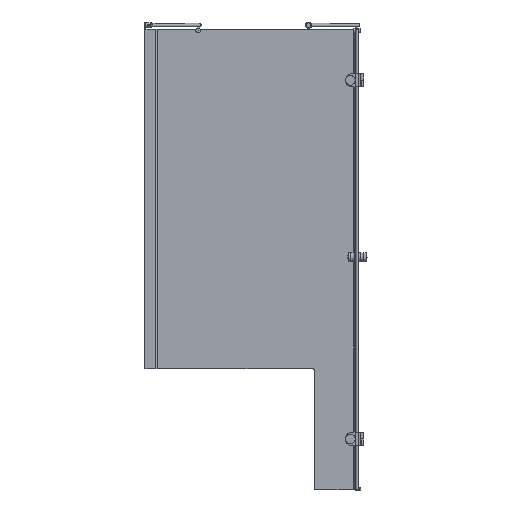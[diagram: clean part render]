
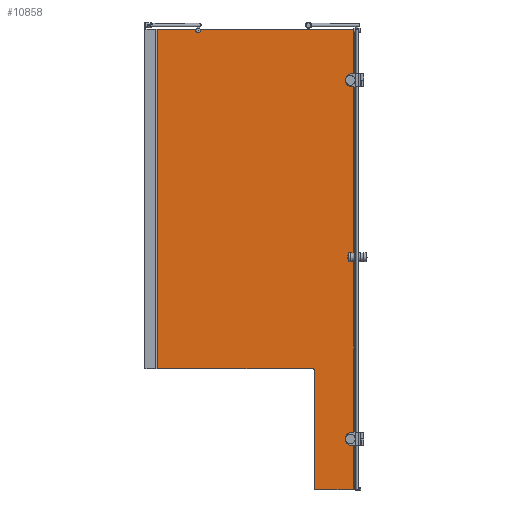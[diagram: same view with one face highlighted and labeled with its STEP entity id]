
A CAD part, left-side view. The second image highlights one B-rep face of the part: STEP entity #10858.
In plain terms, the highlighted planar face has unit normal (-1, 0, 0).
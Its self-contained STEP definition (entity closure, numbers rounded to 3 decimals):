
#85=LINE($,#15444,#1139);
#104=LINE($,#15516,#1158);
#121=LINE($,#15559,#1175);
#423=LINE($,#17005,#1477);
#433=LINE($,#17042,#1487);
#437=LINE($,#17055,#1491);
#455=LINE($,#17112,#1509);
#459=LINE($,#17138,#1513);
#524=LINE($,#17348,#1578);
#528=LINE($,#17357,#1582);
#634=LINE($,#17998,#1688);
#637=LINE($,#18003,#1691);
#648=LINE($,#18040,#1702);
#768=LINE($,#18416,#1822);
#1139=VECTOR($,#12101,631.666);
#1158=VECTOR($,#12154,2.457);
#1175=VECTOR($,#12183,158.474);
#1477=VECTOR($,#13073,1898.);
#1487=VECTOR($,#13095,12.192);
#1491=VECTOR($,#13111,2.543);
#1509=VECTOR($,#13145,1898.);
#1513=VECTOR($,#13165,1884.733);
#1578=VECTOR($,#13348,639.);
#1582=VECTOR($,#13356,1400.);
#1688=VECTOR($,#13742,2.);
#1691=VECTOR($,#13747,5.581);
#1702=VECTOR($,#13792,158.419);
#1822=VECTOR($,#14148,490.);
#2880=FACE_OUTER_BOUND($,#3495,.T.);
#3495=EDGE_LOOP($,(#8613,#8614,#8615,#8616,#8617,#8618,#8619,#8620,#8621,
#8622,#8623,#8624,#8625,#8626,#8627,#8628,#8629,#8630,#8631));
#3690=CIRCLE($,#11059,10.);
#3874=CIRCLE($,#11460,0.5);
#3875=CIRCLE($,#11462,16.);
#3879=CIRCLE($,#11469,16.);
#3996=CIRCLE($,#11765,10.);
#4062=VERTEX_POINT($,#15102);
#4064=VERTEX_POINT($,#15106);
#4090=VERTEX_POINT($,#15443);
#4125=VERTEX_POINT($,#15514);
#4126=VERTEX_POINT($,#15515);
#4146=VERTEX_POINT($,#15557);
#4465=VERTEX_POINT($,#17004);
#4475=VERTEX_POINT($,#17030);
#4476=VERTEX_POINT($,#17041);
#4479=VERTEX_POINT($,#17054);
#4500=VERTEX_POINT($,#17127);
#4535=VERTEX_POINT($,#17231);
#4536=VERTEX_POINT($,#17233);
#4561=VERTEX_POINT($,#17345);
#4562=VERTEX_POINT($,#17347);
#4683=VERTEX_POINT($,#17993);
#4684=VERTEX_POINT($,#17997);
#4694=VERTEX_POINT($,#18039);
#4780=VERTEX_POINT($,#18414);
#5069=EDGE_CURVE($,#4062,#4064,#3690,.T.);
#5102=EDGE_CURVE($,#4090,#4062,#85,.T.);
#5138=EDGE_CURVE($,#4125,#4126,#104,.T.);
#5160=EDGE_CURVE($,#4064,#4146,#121,.T.);
#5611=EDGE_CURVE($,#4126,#4465,#423,.T.);
#5625=EDGE_CURVE($,#4475,#4476,#433,.T.);
#5632=EDGE_CURVE($,#4465,#4479,#437,.T.);
#5656=EDGE_CURVE($,#4479,#4090,#455,.T.);
#5664=EDGE_CURVE($,#4125,#4500,#459,.T.);
#5712=EDGE_CURVE($,#4536,#4535,#3874,.T.);
#5714=EDGE_CURVE($,#4535,#4500,#3875,.T.);
#5727=EDGE_CURVE($,#4475,#4536,#3879,.T.);
#5759=EDGE_CURVE($,#4562,#4561,#524,.T.);
#5764=EDGE_CURVE($,#4146,#4562,#528,.T.);
#5953=EDGE_CURVE($,#4476,#4684,#634,.T.);
#5956=EDGE_CURVE($,#4684,#4683,#637,.T.);
#5973=EDGE_CURVE($,#4683,#4694,#648,.T.);
#6138=EDGE_CURVE($,#4780,#4561,#3996,.T.);
#6139=EDGE_CURVE($,#4780,#4694,#768,.T.);
#8613=ORIENTED_EDGE($,*,*,#5069,.T.);
#8614=ORIENTED_EDGE($,*,*,#5160,.T.);
#8615=ORIENTED_EDGE($,*,*,#5764,.T.);
#8616=ORIENTED_EDGE($,*,*,#5759,.T.);
#8617=ORIENTED_EDGE($,*,*,#6138,.F.);
#8618=ORIENTED_EDGE($,*,*,#6139,.T.);
#8619=ORIENTED_EDGE($,*,*,#5973,.F.);
#8620=ORIENTED_EDGE($,*,*,#5956,.F.);
#8621=ORIENTED_EDGE($,*,*,#5953,.F.);
#8622=ORIENTED_EDGE($,*,*,#5625,.F.);
#8623=ORIENTED_EDGE($,*,*,#5727,.T.);
#8624=ORIENTED_EDGE($,*,*,#5712,.T.);
#8625=ORIENTED_EDGE($,*,*,#5714,.T.);
#8626=ORIENTED_EDGE($,*,*,#5664,.F.);
#8627=ORIENTED_EDGE($,*,*,#5138,.T.);
#8628=ORIENTED_EDGE($,*,*,#5611,.T.);
#8629=ORIENTED_EDGE($,*,*,#5632,.T.);
#8630=ORIENTED_EDGE($,*,*,#5656,.T.);
#8631=ORIENTED_EDGE($,*,*,#5102,.T.);
#9747=PLANE($,#11764);
#10858=ADVANCED_FACE($,(#2880),#9747,.T.);
#11059=AXIS2_PLACEMENT_3D($,#15108,#12037,#12038);
#11460=AXIS2_PLACEMENT_3D($,#17234,#13256,#13257);
#11462=AXIS2_PLACEMENT_3D($,#17237,#13261,#13262);
#11469=AXIS2_PLACEMENT_3D($,#17280,#13282,#13283);
#11764=AXIS2_PLACEMENT_3D($,#18413,#14144,#14145);
#11765=AXIS2_PLACEMENT_3D($,#18415,#14146,#14147);
#12037=DIRECTION('center_axis',(1.,0.,0.));
#12038=DIRECTION('ref_axis',(0.,0.597,0.802));
#12101=DIRECTION($,(0.,1.,0.));
#12154=DIRECTION($,(0.,1.,0.));
#12183=DIRECTION($,(0.,1.,0.));
#13073=DIRECTION($,(0.,0.,-1.));
#13095=DIRECTION($,(0.,0.,-1.));
#13111=DIRECTION($,(0.,1.,0.));
#13145=DIRECTION($,(0.,0.,1.));
#13165=DIRECTION($,(0.,0.,-1.));
#13256=DIRECTION('center_axis',(1.,0.,0.));
#13257=DIRECTION('ref_axis',(0.,-0.169,-0.986));
#13261=DIRECTION('center_axis',(-1.,0.,0.));
#13262=DIRECTION('ref_axis',(0.,0.747,0.665));
#13282=DIRECTION('center_axis',(1.,0.,0.));
#13283=DIRECTION('ref_axis',(0.,-0.71,-0.704));
#13348=DIRECTION($,(0.,-1.,0.));
#13356=DIRECTION($,(0.,0.,-1.));
#13742=DIRECTION($,(0.,0.,-1.));
#13747=DIRECTION($,(0.,1.,0.));
#13792=DIRECTION($,(0.,1.,0.));
#14144=DIRECTION('center_axis',(-1.,0.,0.));
#14145=DIRECTION('ref_axis',(0.,1.,0.));
#14146=DIRECTION('center_axis',(-1.,0.,0.));
#14147=DIRECTION('ref_axis',(0.,-0.707,0.707));
#14148=DIRECTION($,(0.,0.,-1.));
#15102=CARTESIAN_POINT('',(1086.59,617.622,1385.944));
#15106=CARTESIAN_POINT('',(1086.59,635.482,1385.944));
#15108=CARTESIAN_POINT('Origin',(1086.59,626.552,1381.444));
#15443=CARTESIAN_POINT('',(1086.59,-14.044,1385.944));
#15444=CARTESIAN_POINT($,(1086.59,-19.044,1385.944));
#15514=CARTESIAN_POINT('',(1086.59,-19.044,1385.944));
#15515=CARTESIAN_POINT('',(1086.59,-16.587,1385.944));
#15516=CARTESIAN_POINT($,(1086.59,-19.044,1385.944));
#15557=CARTESIAN_POINT('',(1086.59,793.956,1385.944));
#15559=CARTESIAN_POINT($,(1086.59,-19.044,1385.944));
#17004=CARTESIAN_POINT('',(1086.59,-16.587,-512.056));
#17005=CARTESIAN_POINT($,(1086.59,-16.587,1385.944));
#17030=CARTESIAN_POINT('',(1086.59,-19.044,-499.863));
#17041=CARTESIAN_POINT('',(1086.59,-19.044,-512.056));
#17042=CARTESIAN_POINT($,(1086.59,-19.044,1385.944));
#17054=CARTESIAN_POINT('',(1086.59,-14.044,-512.056));
#17055=CARTESIAN_POINT($,(1086.59,-18.53,-512.056));
#17112=CARTESIAN_POINT($,(1086.59,-14.044,1385.944));
#17127=CARTESIAN_POINT('',(1086.59,-19.044,-498.789));
#17138=CARTESIAN_POINT($,(1086.59,-19.044,1385.944));
#17231=CARTESIAN_POINT('',(1086.59,-17.939,-499.067));
#17233=CARTESIAN_POINT('',(1086.59,-18.129,-500.048));
#17234=CARTESIAN_POINT('Origin',(1086.59,-18.044,-499.556));
#17237=CARTESIAN_POINT('Origin',(1086.59,-14.589,-483.421));
#17280=CARTESIAN_POINT('Origin',(1086.59,-15.419,-484.28));
#17345=CARTESIAN_POINT('',(1086.59,154.956,-14.056));
#17347=CARTESIAN_POINT('',(1086.59,793.956,-14.056));
#17348=CARTESIAN_POINT($,(1086.59,62.956,-14.056));
#17357=CARTESIAN_POINT($,(1086.59,793.956,1385.944));
#17993=CARTESIAN_POINT('',(1086.59,-13.463,-514.056));
#17997=CARTESIAN_POINT('',(1086.59,-19.044,-514.056));
#17998=CARTESIAN_POINT($,(1086.59,-19.044,1385.944));
#18003=CARTESIAN_POINT($,(1086.59,-19.044,-514.056));
#18039=CARTESIAN_POINT('',(1086.59,144.956,-514.056));
#18040=CARTESIAN_POINT($,(1086.59,-19.044,-514.056));
#18413=CARTESIAN_POINT('Origin',(1086.59,-19.044,1385.944));
#18414=CARTESIAN_POINT('',(1086.59,144.956,-24.056));
#18415=CARTESIAN_POINT('Origin',(1086.59,154.956,-24.056));
#18416=CARTESIAN_POINT($,(1086.59,144.956,435.944));
